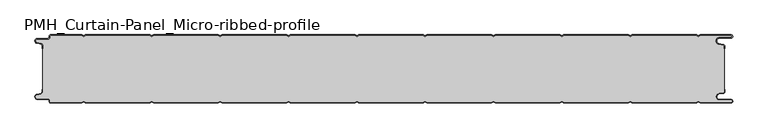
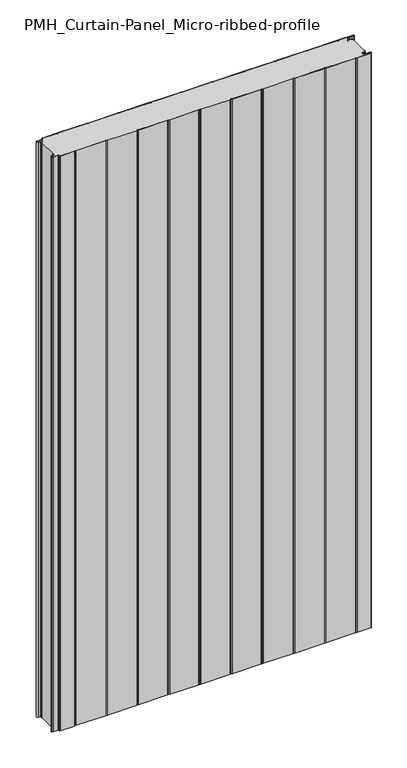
"""IFC4 building model written with IfcOpenShell, lengths in millimetres: plate geometry, PMH_Curtain-Panel_Micro-ribbed-profile : ACH_PMH_Stone-wool-Panel_100M."""

from ifc_helpers import new_model, si_unit, point, frame_2d, origin, origin_with_axes, place, context, project, spatial, polyline, circle_curve, trimmed, segment, composite_curve, outline, extrude, source, transform, mapped, element, save


def pmh_curtain_panel_micro_ribbed_profile_93146dc1(model_context):
    return source(origin(), model_context, "Body", "SweptSolid", [
        extrude(outline(composite_curve([segment(trimmed(circle_curve(frame_2d((-502.0, -15.878557)), 2.0), [point((-500.0, -15.878557))], [point((-501.5500978, -13.9298169))], True, "CARTESIAN"), True, "CONTINUOUS"), segment(polyline([(-501.5500978, -13.9298169), (-507.7098239, -12.507732)]), True, "CONTINUOUS"), segment(trimmed(circle_curve(frame_2d((-506.9, -9.0)), 3.6), [point((-507.7098239, -12.507732))], [point((-506.9, -5.4))], False, "CARTESIAN"), True, "CONTINUOUS"), segment(polyline([(-506.9, -5.4), (-491.4, -5.4)]), True, "CONTINUOUS"), segment(trimmed(circle_curve(frame_2d((-491.4, -3.4)), 2.0), [point((-491.4, -5.4))], [point((-489.4, -3.4))], True, "CARTESIAN"), True, "CONTINUOUS"), segment(polyline([(-489.4, -3.4), (-489.4, -2.0)]), True, "CONTINUOUS"), segment(trimmed(circle_curve(frame_2d((-487.4, -2.0)), 2.0), [point((-489.4, -2.0))], [point((-487.4, 0.0))], False, "CARTESIAN"), True, "CONTINUOUS"), segment(polyline([(-487.4, 0.0), (-442.0999995, 0.0), (-439.4, -1.5588455), (-436.7000005, 0.0), (-342.0999995, 0.0), (-339.4, -1.5588455), (-336.7000005, 0.0), (-242.0999995, 0.0), (-239.4, -1.5588455), (-236.7000005, 0.0), (-142.0999995, 0.0), (-139.4, -1.5588455), (-136.7000005, 0.0), (-42.0999995, 0.0), (-39.4, -1.5588455), (-36.7000005, 0.0), (57.9000005, 0.0), (60.6, -1.5588455), (63.2999995, 0.0), (157.9000005, 0.0), (160.6, -1.5588455), (163.2999995, 0.0), (257.9000005, 0.0), (260.6, -1.5588455), (263.2999995, 0.0), (357.9000005, 0.0), (360.6, -1.5588455), (363.2999995, 0.0), (457.9000005, 0.0), (460.6, -1.5588455), (463.2999995, 0.0), (508.1, 0.0)]), True, "CONTINUOUS"), segment(trimmed(circle_curve(frame_2d((508.1, -2.5)), 2.5), [point((508.1, 0.0))], [point((508.1, -5.0))], False, "CARTESIAN"), True, "CONTINUOUS"), segment(polyline([(508.1, -5.0), (491.1, -5.0)]), True, "CONTINUOUS"), segment(trimmed(circle_curve(frame_2d((491.1, -9.0)), 4.0), [point((491.1, -5.0))], [point((490.405407, -12.939231))], True, "CARTESIAN"), True, "CONTINUOUS"), segment(polyline([(490.405407, -12.939231), (496.8514855, -14.0758491)]), True, "CONTINUOUS"), segment(trimmed(circle_curve(frame_2d((496.4, -16.6363492)), 2.6), [point((496.8514855, -14.0758491))], [point((499.0, -16.6363492))], False, "CARTESIAN"), True, "CONTINUOUS"), segment(polyline([(499.0, -16.6363492), (499.0, -20.0), (498.2, -20.0), (498.2, -16.6363492)]), True, "CONTINUOUS"), segment(trimmed(circle_curve(frame_2d((496.4, -16.6363492)), 1.8), [point((498.2, -16.6363492))], [point((496.7125669, -14.8636953))], True, "CARTESIAN"), True, "CONTINUOUS"), segment(polyline([(496.7125669, -14.8636953), (490.2664884, -13.7270772)]), True, "CONTINUOUS"), segment(trimmed(circle_curve(frame_2d((491.1, -9.0)), 4.8), [point((490.2664884, -13.7270772))], [point((491.1, -4.2))], False, "CARTESIAN"), True, "CONTINUOUS"), segment(polyline([(491.1, -4.2), (508.1, -4.2)]), True, "CONTINUOUS"), segment(trimmed(circle_curve(frame_2d((508.1, -2.5)), 1.7), [point((508.1, -4.2))], [point((508.1, -0.8))], True, "CARTESIAN"), True, "CONTINUOUS"), segment(polyline([(508.1, -0.8), (463.5143588, -0.8), (460.6, -2.482606), (457.6856412, -0.8), (363.5143588, -0.8), (360.6, -2.482606), (357.6856412, -0.8), (263.5143588, -0.8), (260.6, -2.482606), (257.6856412, -0.8), (163.5143588, -0.8), (160.6, -2.482606), (157.6856412, -0.8), (63.5143588, -0.8), (60.6, -2.482606), (57.6856412, -0.8), (-36.4856412, -0.8), (-39.4, -2.482606), (-42.3143588, -0.8), (-136.4856412, -0.8), (-139.4, -2.482606), (-142.3143588, -0.8), (-236.4856412, -0.8), (-239.4, -2.482606), (-242.3143588, -0.8), (-336.4856412, -0.8), (-339.4, -2.482606), (-342.3143588, -0.8), (-436.4856412, -0.8), (-439.4, -2.482606), (-442.3143588, -0.8), (-487.4, -0.8)]), True, "CONTINUOUS"), segment(trimmed(circle_curve(frame_2d((-487.4, -2.0)), 1.2), [point((-487.4, -0.8))], [point((-488.6, -2.0))], True, "CARTESIAN"), True, "CONTINUOUS"), segment(polyline([(-488.6, -2.0), (-488.6, -3.4)]), True, "CONTINUOUS"), segment(trimmed(circle_curve(frame_2d((-491.4, -3.4)), 2.8), [point((-488.6, -3.4))], [point((-491.4, -6.2))], False, "CARTESIAN"), True, "CONTINUOUS"), segment(polyline([(-491.4, -6.2), (-506.9, -6.2)]), True, "CONTINUOUS"), segment(trimmed(circle_curve(frame_2d((-506.9, -9.0)), 2.8), [point((-506.9, -6.2))], [point((-507.529863, -11.7282362))], True, "CARTESIAN"), True, "CONTINUOUS"), segment(polyline([(-507.529863, -11.7282362), (-501.370137, -13.150321)]), True, "CONTINUOUS"), segment(trimmed(circle_curve(frame_2d((-502.0, -15.878557)), 2.8), [point((-501.370137, -13.150321))], [point((-499.2, -15.878557))], False, "CARTESIAN"), True, "CONTINUOUS"), segment(polyline([(-499.2, -15.878557), (-499.2, -20.0), (-500.0, -20.0), (-500.0, -15.878557)]), True, "CONTINUOUS")], self_intersect=False)), origin_with_axes(), (0.0, 0.0, 1.0), 1945.7507136),
        extrude(outline(composite_curve([segment(polyline([(-499.2, -84.1214426), (-499.2, -15.8785573)]), True, "CONTINUOUS"), segment(trimmed(circle_curve(frame_2d((-502.0, -15.8785573)), 2.8), [point((-499.2, -15.8785573))], [point((-501.370137, -13.1503212))], True, "CARTESIAN"), True, "CONTINUOUS"), segment(polyline([(-501.370137, -13.1503212), (-507.5298631, -11.7282362)]), True, "CONTINUOUS"), segment(trimmed(circle_curve(frame_2d((-506.9, -9.0)), 2.8), [point((-507.5298631, -11.7282362))], [point((-506.9, -6.2))], False, "CARTESIAN"), True, "CONTINUOUS"), segment(polyline([(-506.9, -6.2), (-491.4000001, -6.2)]), True, "CONTINUOUS"), segment(trimmed(circle_curve(frame_2d((-491.4000001, -3.4)), 2.8), [point((-491.4000001, -6.2))], [point((-488.6000001, -3.4))], True, "CARTESIAN"), True, "CONTINUOUS"), segment(polyline([(-488.6000001, -3.4), (-488.6000001, -2.0)]), True, "CONTINUOUS"), segment(trimmed(circle_curve(frame_2d((-487.4000001, -2.0)), 1.2), [point((-488.6000001, -2.0))], [point((-487.4000001, -0.8))], False, "CARTESIAN"), True, "CONTINUOUS"), segment(polyline([(-487.4000001, -0.8), (-442.3143589, -0.8), (-439.4000001, -2.482606), (-436.4856412, -0.8), (-342.3143589, -0.8), (-339.4000001, -2.482606), (-336.4856412, -0.8), (-242.3143589, -0.8), (-239.4000001, -2.482606), (-236.4856412, -0.8), (-142.3143589, -0.8), (-139.4000001, -2.482606), (-136.4856412, -0.8), (-42.3143589, -0.8), (-39.4000001, -2.482606), (-36.4856412, -0.8), (57.6856411, -0.8), (60.5999999, -2.482606), (63.5143588, -0.8), (157.6856411, -0.8), (160.5999999, -2.482606), (163.5143588, -0.8), (257.6856411, -0.8), (260.5999999, -2.482606), (263.5143588, -0.8), (357.6856411, -0.8), (360.5999999, -2.482606), (363.5143588, -0.8), (457.6856411, -0.8), (460.5999999, -2.482606), (463.5143588, -0.8), (508.0999999, -0.8)]), True, "CONTINUOUS"), segment(trimmed(circle_curve(frame_2d((508.0999999, -2.5)), 1.7), [point((508.0999999, -0.8))], [point((508.0999999, -4.2))], False, "CARTESIAN"), True, "CONTINUOUS"), segment(polyline([(508.0999999, -4.2), (491.0999999, -4.2)]), True, "CONTINUOUS"), segment(trimmed(circle_curve(frame_2d((491.0999999, -9.0)), 4.8), [point((491.0999999, -4.2))], [point((490.2664883, -13.7270771))], True, "CARTESIAN"), True, "CONTINUOUS"), segment(polyline([(490.2664883, -13.7270771), (496.7125668, -14.8636953)]), True, "CONTINUOUS"), segment(trimmed(circle_curve(frame_2d((496.3999999, -16.6363492)), 1.8), [point((496.7125668, -14.8636953))], [point((498.1999999, -16.6363492))], False, "CARTESIAN"), True, "CONTINUOUS"), segment(polyline([(498.1999999, -16.6363492), (498.1999999, -83.3636508)]), True, "CONTINUOUS"), segment(trimmed(circle_curve(frame_2d((496.3999999, -83.3636508)), 1.8), [point((498.1999999, -83.3636508))], [point((496.7125668, -85.1363047))], False, "CARTESIAN"), True, "CONTINUOUS"), segment(polyline([(496.7125668, -85.1363047), (490.2664883, -86.2729229)]), True, "CONTINUOUS"), segment(trimmed(circle_curve(frame_2d((491.0999999, -91.0)), 4.8), [point((490.2664883, -86.2729229))], [point((491.0999999, -95.8))], True, "CARTESIAN"), True, "CONTINUOUS"), segment(polyline([(491.0999999, -95.8), (508.0999999, -95.8)]), True, "CONTINUOUS"), segment(trimmed(circle_curve(frame_2d((508.0999999, -97.5)), 1.7), [point((508.0999999, -95.8))], [point((508.0999999, -99.2))], False, "CARTESIAN"), True, "CONTINUOUS"), segment(polyline([(508.0999999, -99.2), (463.5143588, -99.2), (460.5999999, -97.517394), (457.6856411, -99.2), (363.5143588, -99.2), (360.5999999, -97.517394), (357.6856411, -99.2), (263.5143588, -99.2), (260.5999999, -97.517394), (257.6856411, -99.2), (163.5143588, -99.2), (160.5999999, -97.517394), (157.6856411, -99.2), (63.5143588, -99.2), (60.5999999, -97.517394), (57.6856411, -99.2), (-36.4856412, -99.2), (-39.4000001, -97.517394), (-42.3143589, -99.2), (-136.4856412, -99.2), (-139.4000001, -97.517394), (-142.3143589, -99.2), (-236.4856412, -99.2), (-239.4000001, -97.517394), (-242.3143589, -99.2), (-336.4856412, -99.2), (-339.4000001, -97.517394), (-342.3143589, -99.2), (-436.4856412, -99.2), (-439.4000001, -97.517394), (-442.3143589, -99.2), (-487.4000001, -99.2)]), True, "CONTINUOUS"), segment(trimmed(circle_curve(frame_2d((-487.4000001, -98.0)), 1.2), [point((-487.4000001, -99.2))], [point((-488.6000001, -98.0))], False, "CARTESIAN"), True, "CONTINUOUS"), segment(polyline([(-488.6000001, -98.0), (-488.6000001, -96.6)]), True, "CONTINUOUS"), segment(trimmed(circle_curve(frame_2d((-491.4000001, -96.6)), 2.8), [point((-488.6000001, -96.6))], [point((-491.4000001, -93.8))], True, "CARTESIAN"), True, "CONTINUOUS"), segment(polyline([(-491.4000001, -93.8), (-506.9, -93.8)]), True, "CONTINUOUS"), segment(trimmed(circle_curve(frame_2d((-506.9, -91.0)), 2.8), [point((-506.9, -93.8))], [point((-507.5298631, -88.2717638))], False, "CARTESIAN"), True, "CONTINUOUS"), segment(polyline([(-507.5298631, -88.2717638), (-501.370137, -86.8496788)]), True, "CONTINUOUS"), segment(trimmed(circle_curve(frame_2d((-502.0, -84.1214426)), 2.8), [point((-501.370137, -86.8496788))], [point((-499.2, -84.1214426))], True, "CARTESIAN"), True, "CONTINUOUS")], self_intersect=False)), origin_with_axes(), (0.0, 0.0, 1.0), 1945.7507136),
        extrude(outline(composite_curve([segment(polyline([(-500.0, -84.121443), (-500.0, -80.0), (-499.2, -80.0), (-499.2, -84.121443)]), True, "CONTINUOUS"), segment(trimmed(circle_curve(frame_2d((-502.0, -84.121443)), 2.8), [point((-499.2, -84.121443))], [point((-501.370137, -86.8496792))], False, "CARTESIAN"), True, "CONTINUOUS"), segment(polyline([(-501.370137, -86.8496792), (-507.529863, -88.271764)]), True, "CONTINUOUS"), segment(trimmed(circle_curve(frame_2d((-506.9, -91.0)), 2.8), [point((-507.529863, -88.271764))], [point((-506.9, -93.8))], True, "CARTESIAN"), True, "CONTINUOUS"), segment(polyline([(-506.9, -93.8), (-491.4, -93.8)]), True, "CONTINUOUS"), segment(trimmed(circle_curve(frame_2d((-491.4, -96.6)), 2.8), [point((-491.4, -93.8))], [point((-488.6, -96.6))], False, "CARTESIAN"), True, "CONTINUOUS"), segment(polyline([(-488.6, -96.6), (-488.6, -98.0)]), True, "CONTINUOUS"), segment(trimmed(circle_curve(frame_2d((-487.4, -98.0)), 1.2), [point((-488.6, -98.0))], [point((-487.4, -99.2))], True, "CARTESIAN"), True, "CONTINUOUS"), segment(polyline([(-487.4, -99.2), (-442.3143588, -99.2), (-439.4, -97.517394), (-436.4856412, -99.2), (-342.3143588, -99.2), (-339.4, -97.517394), (-336.4856412, -99.2), (-242.3143588, -99.2), (-239.4, -97.517394), (-236.4856412, -99.2), (-142.3143588, -99.2), (-139.4, -97.517394), (-136.4856412, -99.2), (-42.3143588, -99.2), (-39.4, -97.517394), (-36.4856412, -99.2), (57.6856412, -99.2), (60.6, -97.517394), (63.5143588, -99.2), (157.6856412, -99.2), (160.6, -97.517394), (163.5143588, -99.2), (257.6856412, -99.2), (260.6, -97.517394), (263.5143588, -99.2), (357.6856412, -99.2), (360.6, -97.517394), (363.5143588, -99.2), (457.6856412, -99.2), (460.6, -97.517394), (463.5143588, -99.2), (508.1, -99.2)]), True, "CONTINUOUS"), segment(trimmed(circle_curve(frame_2d((508.1, -97.5)), 1.7), [point((508.1, -99.2))], [point((508.1, -95.8))], True, "CARTESIAN"), True, "CONTINUOUS"), segment(polyline([(508.1, -95.8), (491.1, -95.8)]), True, "CONTINUOUS"), segment(trimmed(circle_curve(frame_2d((491.1, -91.0)), 4.8), [point((491.1, -95.8))], [point((490.2664884, -86.2729229))], False, "CARTESIAN"), True, "CONTINUOUS"), segment(polyline([(490.2664884, -86.2729229), (496.7125669, -85.1363047)]), True, "CONTINUOUS"), segment(trimmed(circle_curve(frame_2d((496.4, -83.3636508)), 1.8), [point((496.7125669, -85.1363047))], [point((498.2, -83.3636508))], True, "CARTESIAN"), True, "CONTINUOUS"), segment(polyline([(498.2, -83.3636508), (498.2, -80.0), (499.0, -80.0), (499.0, -83.3636508)]), True, "CONTINUOUS"), segment(trimmed(circle_curve(frame_2d((496.4, -83.3636508)), 2.6), [point((499.0, -83.3636508))], [point((496.8514855, -85.9241509))], False, "CARTESIAN"), True, "CONTINUOUS"), segment(polyline([(496.8514855, -85.9241509), (490.405407, -87.060769)]), True, "CONTINUOUS"), segment(trimmed(circle_curve(frame_2d((491.1, -91.0)), 4.0), [point((490.405407, -87.060769))], [point((491.1, -95.0))], True, "CARTESIAN"), True, "CONTINUOUS"), segment(polyline([(491.1, -95.0), (508.1, -95.0)]), True, "CONTINUOUS"), segment(trimmed(circle_curve(frame_2d((508.1, -97.5)), 2.5), [point((508.1, -95.0))], [point((508.1, -100.0))], False, "CARTESIAN"), True, "CONTINUOUS"), segment(polyline([(508.1, -100.0), (463.2999995, -100.0), (460.6, -98.4411545), (457.9000005, -100.0), (363.2999995, -100.0), (360.6, -98.4411545), (357.9000005, -100.0), (263.2999995, -100.0), (260.6, -98.4411545), (257.9000005, -100.0), (163.2999995, -100.0), (160.6, -98.4411545), (157.9000005, -100.0), (63.2999995, -100.0), (60.6, -98.4411545), (57.9000005, -100.0), (-36.7000005, -100.0), (-39.4, -98.4411545), (-42.0999995, -100.0), (-136.7000005, -100.0), (-139.4, -98.4411545), (-142.0999995, -100.0), (-236.7000005, -100.0), (-239.4, -98.4411545), (-242.0999995, -100.0), (-336.7000005, -100.0), (-339.4, -98.4411545), (-342.0999995, -100.0), (-436.7000005, -100.0), (-439.4, -98.4411545), (-442.0999995, -100.0), (-487.4, -100.0)]), True, "CONTINUOUS"), segment(trimmed(circle_curve(frame_2d((-487.4, -98.0)), 2.0), [point((-487.4, -100.0))], [point((-489.4, -98.0))], False, "CARTESIAN"), True, "CONTINUOUS"), segment(polyline([(-489.4, -98.0), (-489.4, -96.6)]), True, "CONTINUOUS"), segment(trimmed(circle_curve(frame_2d((-491.4, -96.6)), 2.0), [point((-489.4, -96.6))], [point((-491.4, -94.6))], True, "CARTESIAN"), True, "CONTINUOUS"), segment(polyline([(-491.4, -94.6), (-506.9, -94.6)]), True, "CONTINUOUS"), segment(trimmed(circle_curve(frame_2d((-506.9, -91.0)), 3.6), [point((-506.9, -94.6))], [point((-507.7098239, -87.4922678))], False, "CARTESIAN"), True, "CONTINUOUS"), segment(polyline([(-507.7098239, -87.4922678), (-501.5500979, -86.070183)]), True, "CONTINUOUS"), segment(trimmed(circle_curve(frame_2d((-502.0, -84.121443)), 2.0), [point((-501.5500979, -86.070183))], [point((-500.0, -84.121443))], True, "CARTESIAN"), True, "CONTINUOUS")], self_intersect=False)), origin_with_axes(), (0.0, 0.0, 1.0), 1945.7507136),
    ])


if __name__ == "__main__":
    model = new_model("IFC4")
    model_context = context("Model", 3, world=origin())
    ifc_project = project(units=[si_unit("LENGTHUNIT", "METRE", prefix="MILLI")], contexts=[model_context])
    site = spatial("IfcSite", under=ifc_project)
    building = spatial("IfcBuilding", under=site)
    placement = place(None, origin())
    pmh_curtain_panel_micro_ribbed_profile_shape = pmh_curtain_panel_micro_ribbed_profile_93146dc1(model_context)
    element("IfcPlate", 1, ObjectType="PMH_Curtain-Panel_Micro-ribbed-profile : ACH_PMH_Stone-wool-Panel_100M", at=placement, inside=building, context=model_context, shape_type="MappedRepresentation", body=[
        mapped(pmh_curtain_panel_micro_ribbed_profile_shape, transform((0.0, 0.0, 0.0), x_axis=(1.0, 0.0, 0.0), y_axis=(0.0, 1.0, 0.0), z_axis=(0.0, 0.0, 1.0))),
    ])
    save(model, "model.ifc")
